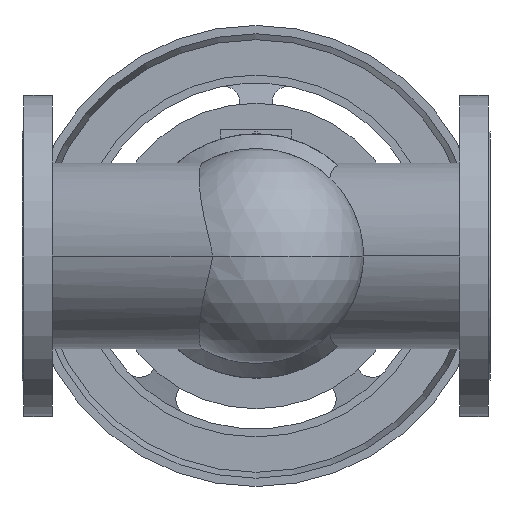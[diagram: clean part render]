
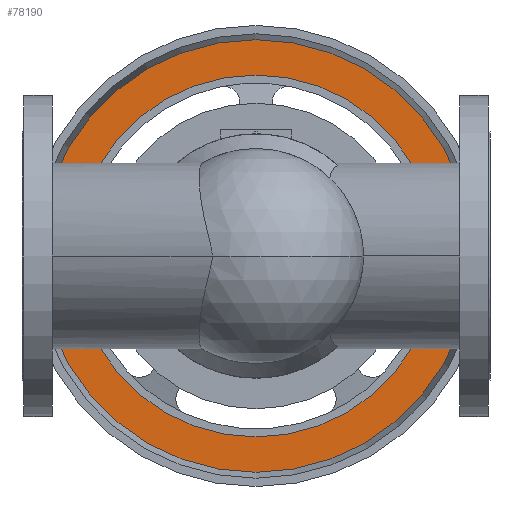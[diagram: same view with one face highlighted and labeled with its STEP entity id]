
A CAD part, front view. The second image highlights one B-rep face of the part: STEP entity #78190.
In plain terms, the highlighted planar face has unit normal (0, -1, 0).
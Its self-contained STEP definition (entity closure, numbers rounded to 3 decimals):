
#77640=CARTESIAN_POINT('',(15.338,595.5,0.));
#77650=VERTEX_POINT('',#77640);
#77730=CARTESIAN_POINT('',(390.662,595.5,0.)
);
#77740=VERTEX_POINT('',#77730);
#77770=CARTESIAN_POINT('',(203.,595.5,0.));
#77780=DIRECTION('',(0.,1.,0.));
#77790=DIRECTION('',(-1.,0.,0.));
#77800=AXIS2_PLACEMENT_3D('',#77770,#77780,#77790);
#77810=CIRCLE('',#77800,187.662);
#77820=EDGE_CURVE('',#77650,#77740,#77810,.T.);
#77940=CARTESIAN_POINT('',(30.669,595.5,0.));
#77950=DIRECTION('',(0.,-1.,0.));
#77960=DIRECTION('',(1.,0.,0.));
#77970=AXIS2_PLACEMENT_3D('',#77940,#77950,#77960);
#77980=PLANE('',#77970);
#77990=EDGE_CURVE('',#77740,#77650,#77810,.T.);
#78000=ORIENTED_EDGE('',*,*,#77990,.F.);
#78010=ORIENTED_EDGE('',*,*,#77820,.F.);
#78020=EDGE_LOOP('',(#78010,#78000));
#78030=FACE_OUTER_BOUND('',#78020,.T.);
#78040=CARTESIAN_POINT('',(203.,595.5,0.));
#78050=DIRECTION('',(0.,1.,0.));
#78060=DIRECTION('',(-1.,0.,0.));
#78070=AXIS2_PLACEMENT_3D('',#78040,#78050,#78060);
#78080=CIRCLE('',#78070,157.);
#78090=CARTESIAN_POINT('',(360.,595.5,0.));
#78100=VERTEX_POINT('',#78090);
#78110=CARTESIAN_POINT('',(46.,595.5,0.));
#78120=VERTEX_POINT('',#78110);
#78130=EDGE_CURVE('',#78100,#78120,#78080,.T.);
#78140=ORIENTED_EDGE('',*,*,#78130,.T.);
#78150=EDGE_CURVE('',#78120,#78100,#78080,.T.);
#78160=ORIENTED_EDGE('',*,*,#78150,.T.);
#78170=EDGE_LOOP('',(#78160,#78140));
#78180=FACE_BOUND('',#78170,.T.);
#78190=ADVANCED_FACE('',(#78030,#78180),#77980,.T.);
